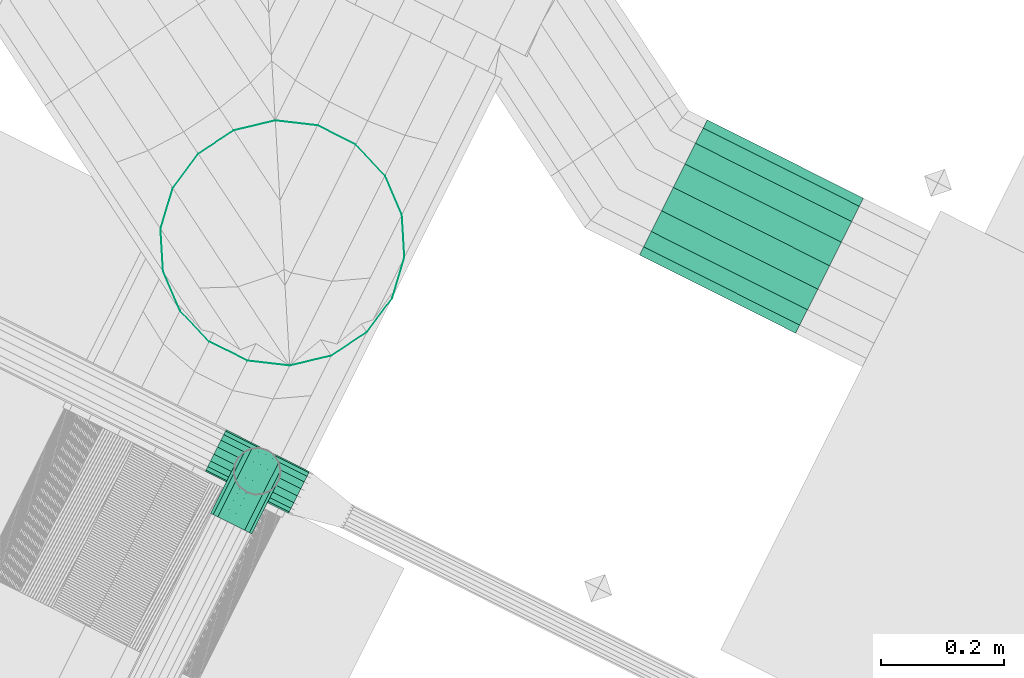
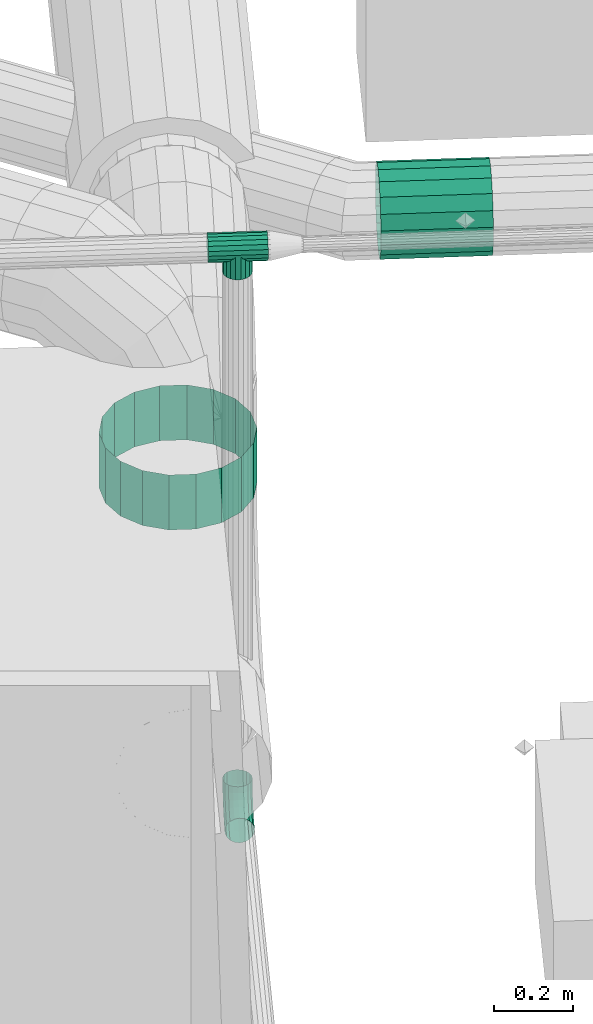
# One storey, part 139 of 206: 4 flow segments, 1 flow fitting.
"""IFC2X3 building model written with IfcOpenShell, lengths in metres."""

from ifc_helpers import new_model, si_unit, derived_unit, direction, frame, origin, place, context, subcontext, project, spatial, face_set, surface_model, source, transform, mapped, material, type_object, type_shapes, element, save


model = new_model("IFC2X3")

# Units and contexts
model_context = context("Model", 3, precision=5.2338327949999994e-05, world=origin(), true_north=direction((0.0, 1.0)))
body_context = subcontext(model_context, "Body", "Model", "MODEL_VIEW")
ifc_project = project(units=[si_unit("LENGTHUNIT", "METRE"), si_unit("AREAUNIT", "SQUARE_METRE"), si_unit("VOLUMEUNIT", "CUBIC_METRE"), si_unit("MASSUNIT", "GRAM", prefix="KILO"), si_unit("PLANEANGLEUNIT", "RADIAN"), derived_unit("THERMALTRANSMITTANCEUNIT", [(si_unit("MASSUNIT", "GRAM", prefix="KILO"), 1), (si_unit("THERMODYNAMICTEMPERATUREUNIT", "KELVIN"), -1), (si_unit("TIMEUNIT", "SECOND"), -3)])], contexts=[model_context])

# Site, building, storey
site_placement = place(None, frame((0.0, 0.0, 0.0), z_axis=(0.0, 0.0, 1.0), x_axis=(0.8939966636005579, -0.4480736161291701, 0.0)))
site = spatial("IfcSite", under=ifc_project, at=site_placement, Name="Default", CompositionType="ELEMENT")
building_placement = place(site_placement, origin())
building = spatial("IfcBuilding", under=site, at=building_placement, CompositionType="ELEMENT")
storey_placement = place(building_placement, origin())
storey = spatial("IfcBuildingStorey", under=building, at=storey_placement, Name="Erdgeschoss", CompositionType="ELEMENT", Elevation=0.0)

# Flow segments
ifc_material_1 = material(Name="IfcSurfaceStyle #251447")
distribution_element_type_1 = type_object("IfcDistributionElementType", Name="Wickelfalzrohr 284036:Wickelfalzrohr 284036", material=ifc_material_1)
shared_shape_1 = source(origin(), body_context, "Body", "SurfaceModel", [
    surface_model("IfcFaceBasedSurfaceModel", [(28.128931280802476, 8.794603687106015, 2.324999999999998), (28.128931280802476, 8.837356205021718, 2.317461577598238), (27.844215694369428, 8.837356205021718, 2.317461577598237), (27.844215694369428, 8.79460368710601, 2.324999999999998), (28.128931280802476, 8.874952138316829, 2.2957555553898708), (27.844215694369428, 8.874952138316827, 2.295755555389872), (28.128931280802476, 8.902856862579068, 2.262499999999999), (27.844215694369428, 8.902856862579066, 2.2625), (28.128931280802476, 8.91770465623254, 2.2217060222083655), (27.844215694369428, 8.917704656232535, 2.2217060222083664), (28.128931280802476, 8.917704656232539, 2.1782939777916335), (27.844215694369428, 8.917704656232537, 2.1782939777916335), (28.128931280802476, 8.902856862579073, 2.1374999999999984), (27.844215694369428, 8.90285686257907, 2.1374999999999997), (28.128931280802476, 8.874952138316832, 2.104244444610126), (27.844215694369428, 8.874952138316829, 2.104244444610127), (28.128931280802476, 8.837356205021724, 2.08253842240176), (27.844215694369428, 8.837356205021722, 2.08253842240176), (28.128931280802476, 8.794603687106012, 2.0749999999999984), (27.844215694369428, 8.794603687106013, 2.0749999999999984), (28.128931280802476, 8.751851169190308, 2.0825384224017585), (27.844215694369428, 8.751851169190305, 2.082538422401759), (28.128931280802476, 8.714255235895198, 2.104244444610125), (27.844215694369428, 8.714255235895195, 2.1042444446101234), (28.128931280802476, 8.686350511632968, 2.1374999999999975), (27.844215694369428, 8.686350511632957, 2.1374999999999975), (28.128931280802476, 8.671502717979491, 2.1782939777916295), (27.844215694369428, 8.671502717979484, 2.1782939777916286), (28.128931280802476, 8.671502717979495, 2.221706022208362), (27.844215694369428, 8.671502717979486, 2.221706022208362), (28.128931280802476, 8.686350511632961, 2.262499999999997), (27.844215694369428, 8.686350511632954, 2.2624999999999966), (28.128931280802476, 8.714255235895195, 2.2957555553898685), (27.844215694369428, 8.714255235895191, 2.2957555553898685), (28.128931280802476, 8.751851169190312, 2.317461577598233), (27.844215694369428, 8.751851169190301, 2.3174615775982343)], [face_set([[[0, 1, 2, 3]], [[1, 4, 5, 2]], [[4, 6, 7, 5]], [[6, 8, 9, 7]], [[8, 10, 11, 9]], [[10, 12, 13, 11]], [[12, 14, 15, 13]], [[14, 16, 17, 15]], [[16, 18, 19, 17]], [[18, 20, 21, 19]], [[20, 22, 23, 21]], [[22, 24, 25, 23]], [[24, 26, 27, 25]], [[26, 28, 29, 27]], [[28, 30, 31, 29]], [[30, 32, 33, 31]], [[32, 34, 35, 33]], [[34, 0, 3, 35]]])]),
])
type_shapes(distribution_element_type_1, [shared_shape_1])
flow_segment_1_placement = place(storey_placement, origin())
element("IfcFlowSegment", 1, at=flow_segment_1_placement, inside=storey, type_object=distribution_element_type_1, material=ifc_material_1, Name="Wickelfalzrohr", ObjectType="Wickelfalzrohr", context=body_context, shape_type="MappedRepresentation", body=[
    mapped(shared_shape_1, transform((0.0, 0.0, 0.0), scale=1.0)),
])
distribution_element_type_2 = type_object("IfcDistributionElementType", material=ifc_material_1)
shared_shape_2 = source(origin(), body_context, "Body", "SurfaceModel", [
    surface_model("IfcFaceBasedSurfaceModel", [(27.515508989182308, 8.428208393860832, 1.6300000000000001), (27.50344751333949, 8.496612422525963, 1.6300000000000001), (27.50344751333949, 8.496612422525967, 1.7999999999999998), (27.515508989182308, 8.42820839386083, 1.7999999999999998), (27.468717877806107, 8.556765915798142, 1.6300000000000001), (27.468717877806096, 8.556765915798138, 1.7999999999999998), (27.415508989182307, 8.601413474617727, 1.6300000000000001), (27.415508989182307, 8.60141347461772, 1.7999999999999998), (27.350238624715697, 8.62516994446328, 1.6300000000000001), (27.350238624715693, 8.625169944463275, 1.7999999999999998), (27.280779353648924, 8.625169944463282, 1.6300000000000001), (27.280779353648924, 8.625169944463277, 1.7999999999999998), (27.215508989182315, 8.601413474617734, 1.6300000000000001), (27.21550898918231, 8.601413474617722, 1.7999999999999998), (27.162300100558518, 8.556765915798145, 1.6300000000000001), (27.162300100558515, 8.55676591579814, 1.7999999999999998), (27.127570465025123, 8.496612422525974, 1.6300000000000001), (27.127570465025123, 8.496612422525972, 1.7999999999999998), (27.115508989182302, 8.428208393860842, 1.6300000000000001), (27.115508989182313, 8.428208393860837, 1.7999999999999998), (27.12757046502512, 8.359804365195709, 1.6300000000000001), (27.127570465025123, 8.3598043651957, 1.7999999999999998), (27.162300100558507, 8.29965087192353, 1.6300000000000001), (27.162300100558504, 8.299650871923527, 1.7999999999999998), (27.2155089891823, 8.255003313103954, 1.6300000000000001), (27.215508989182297, 8.255003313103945, 1.7999999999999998), (27.280779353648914, 8.2312468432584, 1.6300000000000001), (27.280779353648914, 8.23124684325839, 1.7999999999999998), (27.350238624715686, 8.231246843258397, 1.6300000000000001), (27.350238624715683, 8.23124684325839, 1.7999999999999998), (27.4155089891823, 8.25500331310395, 1.6300000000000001), (27.4155089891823, 8.255003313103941, 1.7999999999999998), (27.468717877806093, 8.299650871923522, 1.6300000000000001), (27.468717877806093, 8.299650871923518, 1.7999999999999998), (27.50344751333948, 8.359804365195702, 1.6300000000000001), (27.503447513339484, 8.359804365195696, 1.7999999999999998)], [face_set([[[0, 1, 2, 3]], [[1, 4, 5, 2]], [[4, 6, 7, 5]], [[6, 8, 9, 7]], [[8, 10, 11, 9]], [[10, 12, 13, 11]], [[12, 14, 15, 13]], [[14, 16, 17, 15]], [[16, 18, 19, 17]], [[18, 20, 21, 19]], [[20, 22, 23, 21]], [[22, 24, 25, 23]], [[24, 26, 27, 25]], [[26, 28, 29, 27]], [[28, 30, 31, 29]], [[30, 32, 33, 31]], [[32, 34, 35, 33]], [[34, 0, 3, 35]]])]),
])
type_shapes(distribution_element_type_2, [shared_shape_2])
flow_segment_2_placement = place(storey_placement, origin())
element("IfcFlowSegment", 2, at=flow_segment_2_placement, inside=storey, type_object=distribution_element_type_2, material=ifc_material_1, Name="Wickelfalzrohr", ObjectType="Wickelfalzrohr", context=body_context, shape_type="MappedRepresentation", body=[
    mapped(shared_shape_2, transform((0.0, 0.0, 0.0), scale=1.0)),
])
distribution_element_type_3 = type_object("IfcDistributionElementType", material=ifc_material_1)
shared_shape_3 = source(origin(), body_context, "Body", "SurfaceModel", [
    surface_model("IfcFaceBasedSurfaceModel", [(27.515508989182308, 8.428208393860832, 1.6300000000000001), (27.50344751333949, 8.496612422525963, 1.6300000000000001), (27.50344751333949, 8.496612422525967, 1.7999999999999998), (27.515508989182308, 8.42820839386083, 1.7999999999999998), (27.468717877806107, 8.556765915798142, 1.6300000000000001), (27.468717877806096, 8.556765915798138, 1.7999999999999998), (27.415508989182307, 8.601413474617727, 1.6300000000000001), (27.415508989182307, 8.60141347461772, 1.7999999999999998), (27.350238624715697, 8.62516994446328, 1.6300000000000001), (27.350238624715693, 8.625169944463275, 1.7999999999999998), (27.280779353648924, 8.625169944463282, 1.6300000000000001), (27.280779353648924, 8.625169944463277, 1.7999999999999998), (27.215508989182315, 8.601413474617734, 1.6300000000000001), (27.21550898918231, 8.601413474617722, 1.7999999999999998), (27.162300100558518, 8.556765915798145, 1.6300000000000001), (27.162300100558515, 8.55676591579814, 1.7999999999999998), (27.127570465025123, 8.496612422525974, 1.6300000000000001), (27.127570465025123, 8.496612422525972, 1.7999999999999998), (27.115508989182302, 8.428208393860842, 1.6300000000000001), (27.115508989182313, 8.428208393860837, 1.7999999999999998), (27.12757046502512, 8.359804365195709, 1.6300000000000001), (27.127570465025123, 8.3598043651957, 1.7999999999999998), (27.162300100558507, 8.29965087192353, 1.6300000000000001), (27.162300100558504, 8.299650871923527, 1.7999999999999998), (27.2155089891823, 8.255003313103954, 1.6300000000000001), (27.215508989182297, 8.255003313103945, 1.7999999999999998), (27.280779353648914, 8.2312468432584, 1.6300000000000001), (27.280779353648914, 8.23124684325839, 1.7999999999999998), (27.350238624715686, 8.231246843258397, 1.6300000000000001), (27.350238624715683, 8.23124684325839, 1.7999999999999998), (27.4155089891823, 8.25500331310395, 1.6300000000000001), (27.4155089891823, 8.255003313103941, 1.7999999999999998), (27.468717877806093, 8.299650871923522, 1.6300000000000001), (27.468717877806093, 8.299650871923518, 1.7999999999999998), (27.50344751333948, 8.359804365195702, 1.6300000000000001), (27.503447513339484, 8.359804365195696, 1.7999999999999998)], [face_set([[[0, 1, 2, 3]], [[1, 4, 5, 2]], [[4, 6, 7, 5]], [[6, 8, 9, 7]], [[8, 10, 11, 9]], [[10, 12, 13, 11]], [[12, 14, 15, 13]], [[14, 16, 17, 15]], [[16, 18, 19, 17]], [[18, 20, 21, 19]], [[20, 22, 23, 21]], [[22, 24, 25, 23]], [[24, 26, 27, 25]], [[26, 28, 29, 27]], [[28, 30, 31, 29]], [[30, 32, 33, 31]], [[32, 34, 35, 33]], [[34, 0, 3, 35]]])]),
])
type_shapes(distribution_element_type_3, [shared_shape_3])
flow_segment_3_placement = place(storey_placement, origin())
element("IfcFlowSegment", 3, at=flow_segment_3_placement, inside=storey, type_object=distribution_element_type_3, material=ifc_material_1, Name="Wickelfalzrohr", ObjectType="Wickelfalzrohr", context=body_context, shape_type="MappedRepresentation", body=[
    mapped(shared_shape_3, transform((0.0, 0.0, 0.0), scale=1.0)),
])

# Flow fitting
ifc_material_2 = material(Name="IfcSurfaceStyle #352577")
distribution_element_type_4 = type_object("IfcDistributionElementType", Name="Abzweigstück 604998:Abzweigstück 604998", material=ifc_material_2)
shared_shape_4 = source(origin(), body_context, "Body", "SurfaceModel", [
    surface_model("IfcFaceBasedSurfaceModel", [(27.369642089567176, 8.115212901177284, 2.6051641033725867), (27.369642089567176, 8.112918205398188, 2.61817796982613), (27.52164208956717, 8.112918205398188, 2.61817796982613), (27.52164208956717, 8.115212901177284, 2.6051641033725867), (27.369642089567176, 8.106310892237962, 2.6296221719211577), (27.52164208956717, 8.106310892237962, 2.6296221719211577), (27.369642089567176, 8.096187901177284, 2.638116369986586), (27.52164208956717, 8.096187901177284, 2.638116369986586), (27.369642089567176, 8.08377021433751, 2.642636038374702), (27.52164208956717, 8.08377021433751, 2.642636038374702), (27.369642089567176, 8.070555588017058, 2.642636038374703), (27.52164208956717, 8.070555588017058, 2.642636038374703), (27.369642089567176, 8.058137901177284, 2.638116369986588), (27.52164208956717, 8.058137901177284, 2.638116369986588), (27.369642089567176, 8.048014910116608, 2.62962217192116), (27.52164208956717, 8.048014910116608, 2.62962217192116), (27.369642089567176, 8.04140759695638, 2.618177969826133), (27.52164208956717, 8.04140759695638, 2.618177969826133), (27.369642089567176, 8.039112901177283, 2.60516410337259), (27.52164208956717, 8.039112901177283, 2.60516410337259), (27.369642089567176, 8.041407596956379, 2.592150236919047), (27.52164208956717, 8.041407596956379, 2.592150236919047), (27.369642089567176, 8.048014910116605, 2.5807060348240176), (27.52164208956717, 8.048014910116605, 2.5807060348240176), (27.369642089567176, 8.058137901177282, 2.5722118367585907), (27.52164208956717, 8.058137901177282, 2.5722118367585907), (27.369642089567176, 8.070555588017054, 2.5676921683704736), (27.52164208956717, 8.070555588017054, 2.5676921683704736), (27.369642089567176, 8.083770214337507, 2.5676921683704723), (27.52164208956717, 8.083770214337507, 2.5676921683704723), (27.369642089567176, 8.096187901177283, 2.5722118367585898), (27.52164208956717, 8.096187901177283, 2.5722118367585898), (27.369642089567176, 8.106310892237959, 2.580706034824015), (27.52164208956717, 8.106310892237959, 2.580706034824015), (27.369642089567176, 8.112918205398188, 2.592150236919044), (27.52164208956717, 8.112918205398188, 2.592150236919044), (27.48369208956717, 8.077162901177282, 2.5671141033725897), (27.481397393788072, 8.064149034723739, 2.569408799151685), (27.48139739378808, 8.064149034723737, 2.5291641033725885), (27.48369208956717, 8.077162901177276, 2.5291641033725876), (27.47479008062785, 8.052704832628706, 2.576016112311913), (27.47479008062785, 8.052704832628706, 2.5291641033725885), (27.464667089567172, 8.044210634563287, 2.5861391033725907), (27.464667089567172, 8.044210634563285, 2.5291641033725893), (27.4522494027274, 8.039690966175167, 2.598556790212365), (27.4522494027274, 8.039690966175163, 2.529164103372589), (27.43903477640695, 8.039690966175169, 2.598556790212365), (27.43903477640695, 8.039690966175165, 2.529164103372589), (27.426617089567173, 8.044210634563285, 2.5861391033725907), (27.426617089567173, 8.044210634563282, 2.5291641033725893), (27.416494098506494, 8.052704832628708, 2.576016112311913), (27.416494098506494, 8.052704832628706, 2.5291641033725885), (27.40988678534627, 8.064149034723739, 2.569408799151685), (27.40988678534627, 8.064149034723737, 2.5291641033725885), (27.407592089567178, 8.07716290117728, 2.5671141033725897), (27.407592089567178, 8.077162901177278, 2.5291641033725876), (27.409886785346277, 8.090176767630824, 2.569408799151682), (27.40988678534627, 8.09017676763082, 2.5291641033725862), (27.416494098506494, 8.101620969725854, 2.57601611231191), (27.416494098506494, 8.101620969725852, 2.5291641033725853), (27.426617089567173, 8.110115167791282, 2.5861391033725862), (27.426617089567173, 8.11011516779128, 2.529164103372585), (27.439034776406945, 8.1146348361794, 2.598556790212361), (27.43903477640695, 8.114634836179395, 2.529164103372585), (27.4522494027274, 8.114634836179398, 2.598556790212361), (27.4522494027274, 8.114634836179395, 2.529164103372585), (27.464667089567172, 8.11011516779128, 2.5861391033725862), (27.464667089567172, 8.110115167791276, 2.529164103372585), (27.474790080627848, 8.10162096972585, 2.57601611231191), (27.47479008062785, 8.10162096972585, 2.5291641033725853), (27.48139739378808, 8.090176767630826, 2.569408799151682), (27.48139739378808, 8.090176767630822, 2.5291641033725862)], [face_set([[[0, 1, 2, 3]], [[1, 4, 5, 2]], [[4, 6, 7, 5]], [[6, 8, 9, 7]], [[8, 10, 11, 9]], [[10, 12, 13, 11]], [[12, 14, 15, 13]], [[14, 16, 17, 15]], [[16, 18, 19, 17]], [[18, 20, 21, 19]], [[20, 22, 23, 21]], [[22, 24, 25, 23]], [[24, 26, 27, 25]], [[26, 28, 29, 27]], [[28, 30, 31, 29]], [[30, 32, 33, 31]], [[32, 34, 35, 33]], [[34, 0, 3, 35]], [[36, 37, 38, 39]], [[37, 40, 41, 38]], [[40, 42, 43, 41]], [[42, 44, 45, 43]], [[44, 46, 47, 45]], [[46, 48, 49, 47]], [[48, 50, 51, 49]], [[50, 52, 53, 51]], [[52, 54, 55, 53]], [[54, 56, 57, 55]], [[56, 58, 59, 57]], [[58, 60, 61, 59]], [[60, 62, 63, 61]], [[62, 64, 65, 63]], [[64, 66, 67, 65]], [[66, 68, 69, 67]], [[68, 70, 71, 69]], [[70, 36, 39, 71]]])]),
])
type_shapes(distribution_element_type_4, [shared_shape_4])
flow_fitting_placement = place(storey_placement, origin())
element("IfcFlowFitting", 4, at=flow_fitting_placement, inside=storey, type_object=distribution_element_type_4, material=ifc_material_2, Name="Abzweigstück", ObjectType="Abzweigstück", context=body_context, shape_type="MappedRepresentation", body=[
    mapped(shared_shape_4, transform((0.0, 0.0, 0.0), scale=1.0)),
])

# Flow segment
distribution_element_type_5 = type_object("IfcDistributionElementType", Name="Rohrbogen 605204:Rohrbogen 605204", material=ifc_material_2)
shared_shape_5 = source(origin(), body_context, "Body", "SurfaceModel", [
    surface_model("IfcFaceBasedSurfaceModel", [(27.445642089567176, 7.9821629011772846, 0.8319499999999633), (27.432628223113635, 7.9821629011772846, 0.8342446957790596), (27.432628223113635, 8.022568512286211, 0.8406443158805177), (27.445642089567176, 8.023277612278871, 0.8384619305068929), (27.432628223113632, 8.059018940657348, 0.8592167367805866), (27.445642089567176, 8.060367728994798, 0.8573602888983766), (27.432628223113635, 8.087946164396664, 0.8881439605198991), (27.44564208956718, 8.08980261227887, 0.8867951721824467), (27.432628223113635, 8.106518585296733, 0.9245943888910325), (27.44564208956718, 8.108700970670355, 0.9238852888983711), (27.432628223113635, 8.112918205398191, 0.9649999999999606), (27.445642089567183, 8.115212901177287, 0.9649999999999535), (27.421184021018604, 7.9821629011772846, 0.8408520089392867), (27.421184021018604, 8.020526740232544, 0.8469282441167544), (27.421184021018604, 8.055135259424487, 0.8645621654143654), (27.421184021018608, 8.082600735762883, 0.8920276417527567), (27.421184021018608, 8.100234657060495, 0.9266361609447), (27.421184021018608, 8.106310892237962, 0.9649999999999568), (27.412689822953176, 7.982162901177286, 0.8509749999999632), (27.412689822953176, 8.017398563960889, 0.8565557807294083), (27.412689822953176, 8.049185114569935, 0.8727518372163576), (27.412689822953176, 8.074411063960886, 0.8979777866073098), (27.412689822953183, 8.090607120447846, 0.929764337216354), (27.412689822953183, 8.09618790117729, 0.9649999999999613), (27.40817015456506, 7.982162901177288, 0.8633926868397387), (27.40817015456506, 8.013561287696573, 0.8683657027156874), (27.40817015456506, 8.04188618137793, 0.8827979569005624), (27.40817015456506, 8.064364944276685, 0.9052767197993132), (27.408170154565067, 8.078797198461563, 0.93360161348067), (27.408170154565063, 8.083770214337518, 0.964999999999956), (27.40817015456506, 7.982162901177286, 0.8766073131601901), (27.40817015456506, 8.00947774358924, 0.880933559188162), (27.40817015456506, 8.034118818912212, 0.8934888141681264), (27.40817015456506, 8.053674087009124, 0.9130440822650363), (27.408170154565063, 8.066229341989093, 0.9376851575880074), (27.408170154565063, 8.070555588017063, 0.9649999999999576), (27.412689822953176, 7.982162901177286, 0.8890249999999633), (27.412689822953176, 8.005640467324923, 0.892743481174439), (27.412689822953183, 8.02681988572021, 0.9035349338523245), (27.412689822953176, 8.043627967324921, 0.9203430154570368), (27.412689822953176, 8.054419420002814, 0.941522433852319), (27.412689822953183, 8.058137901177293, 0.964999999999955), (27.421184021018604, 7.982162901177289, 0.8991479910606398), (27.421184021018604, 8.002512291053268, 0.9023710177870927), (27.421184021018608, 8.02086974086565, 0.911724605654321), (27.421184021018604, 8.035438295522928, 0.926293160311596), (27.421184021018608, 8.044791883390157, 0.9446506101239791), (27.42118402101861, 8.04801491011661, 0.9649999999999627), (27.432628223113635, 7.982162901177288, 0.9057553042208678), (27.432628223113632, 8.000470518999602, 0.9086549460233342), (27.432628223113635, 8.016986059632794, 0.9170700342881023), (27.432628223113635, 8.03009286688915, 0.9301768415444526), (27.432628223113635, 8.038507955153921, 0.9466923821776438), (27.432628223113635, 8.04140759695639, 0.9649999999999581), (27.445642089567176, 7.982162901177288, 0.9080499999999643), (27.445642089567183, 7.99976141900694, 0.9108373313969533), (27.44564208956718, 8.015637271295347, 0.9189264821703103), (27.445642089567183, 8.028236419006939, 0.9315256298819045), (27.44564208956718, 8.036325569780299, 0.9474014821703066), (27.445642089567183, 8.03911290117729, 0.964999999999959), (27.458655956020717, 7.982162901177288, 0.9057553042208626), (27.45865595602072, 8.000470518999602, 0.9086549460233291), (27.458655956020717, 8.016986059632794, 0.9170700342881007), (27.458655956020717, 8.030092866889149, 0.9301768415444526), (27.458655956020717, 8.038507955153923, 0.9466923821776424), (27.45865595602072, 8.041407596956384, 0.9649999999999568), (27.470100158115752, 7.982162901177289, 0.8991479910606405), (27.470100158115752, 8.00251229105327, 0.9023710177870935), (27.470100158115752, 8.02086974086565, 0.9117246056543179), (27.470100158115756, 8.03543829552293, 0.9262931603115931), (27.470100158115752, 8.044791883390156, 0.944650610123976), (27.470100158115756, 8.048014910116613, 0.96499999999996), (27.478594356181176, 7.982162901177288, 0.8890249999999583), (27.478594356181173, 8.005640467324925, 0.8927434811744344), (27.478594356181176, 8.02681988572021, 0.9035349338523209), (27.478594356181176, 8.043627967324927, 0.9203430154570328), (27.478594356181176, 8.054419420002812, 0.9415224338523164), (27.47859435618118, 8.058137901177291, 0.9649999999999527), (27.48311402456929, 7.982162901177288, 0.876607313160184), (27.48311402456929, 8.009477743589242, 0.8809335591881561), (27.48311402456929, 8.034118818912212, 0.8934888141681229), (27.48311402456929, 8.053674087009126, 0.913044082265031), (27.48311402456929, 8.066229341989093, 0.9376851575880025), (27.483114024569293, 8.070555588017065, 0.9649999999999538), (27.48311402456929, 7.982162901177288, 0.8633926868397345), (27.48311402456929, 8.013561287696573, 0.8683657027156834), (27.48311402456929, 8.041886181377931, 0.8827979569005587), (27.48311402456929, 8.064364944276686, 0.9052767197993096), (27.483114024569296, 8.078797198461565, 0.9336016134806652), (27.483114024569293, 8.083770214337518, 0.9649999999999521), (27.478594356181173, 7.982162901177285, 0.8509749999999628), (27.478594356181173, 8.01739856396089, 0.8565557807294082), (27.478594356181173, 8.049185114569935, 0.8727518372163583), (27.478594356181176, 8.07441106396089, 0.8979777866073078), (27.478594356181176, 8.090607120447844, 0.9297643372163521), (27.47859435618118, 8.096187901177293, 0.9649999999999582), (27.47010015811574, 7.9821629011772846, 0.8408520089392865), (27.470100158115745, 8.020526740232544, 0.8469282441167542), (27.470100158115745, 8.055135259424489, 0.8645621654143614), (27.470100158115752, 8.082600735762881, 0.8920276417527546), (27.470100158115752, 8.100234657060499, 0.9266361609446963), (27.47010015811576, 8.106310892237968, 0.9649999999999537), (27.458655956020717, 7.982162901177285, 0.8342446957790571), (27.458655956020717, 8.022568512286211, 0.8406443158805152), (27.458655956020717, 8.05901894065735, 0.8592167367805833), (27.458655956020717, 8.087946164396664, 0.8881439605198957), (27.458655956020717, 8.106518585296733, 0.9245943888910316), (27.458655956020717, 8.112918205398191, 0.9649999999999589)], [face_set([[[0, 1, 2, 3]], [[3, 2, 4, 5]], [[5, 4, 6, 7]], [[7, 6, 8, 9]], [[9, 8, 10, 11]], [[1, 12, 13, 2]], [[2, 13, 14, 4]], [[4, 14, 15, 6]], [[6, 15, 16, 8]], [[8, 16, 17, 10]], [[12, 18, 19, 13]], [[13, 19, 20, 14]], [[14, 20, 21, 15]], [[15, 21, 22, 16]], [[16, 22, 23, 17]], [[18, 24, 25, 19]], [[19, 25, 26, 20]], [[20, 26, 27, 21]], [[21, 27, 28, 22]], [[22, 28, 29, 23]], [[24, 30, 31, 25]], [[25, 31, 32, 26]], [[26, 32, 33, 27]], [[27, 33, 34, 28]], [[28, 34, 35, 29]], [[30, 36, 37, 31]], [[31, 37, 38, 32]], [[32, 38, 39, 33]], [[33, 39, 40, 34]], [[34, 40, 41, 35]], [[36, 42, 43, 37]], [[37, 43, 44, 38]], [[38, 44, 45, 39]], [[39, 45, 46, 40]], [[40, 46, 47, 41]], [[42, 48, 49, 43]], [[43, 49, 50, 44]], [[44, 50, 51, 45]], [[45, 51, 52, 46]], [[46, 52, 53, 47]], [[48, 54, 55, 49]], [[49, 55, 56, 50]], [[50, 56, 57, 51]], [[51, 57, 58, 52]], [[52, 58, 59, 53]], [[54, 60, 61, 55]], [[55, 61, 62, 56]], [[56, 62, 63, 57]], [[57, 63, 64, 58]], [[58, 64, 65, 59]], [[60, 66, 67, 61]], [[61, 67, 68, 62]], [[62, 68, 69, 63]], [[63, 69, 70, 64]], [[64, 70, 71, 65]], [[66, 72, 73, 67]], [[67, 73, 74, 68]], [[68, 74, 75, 69]], [[69, 75, 76, 70]], [[70, 76, 77, 71]], [[72, 78, 79, 73]], [[73, 79, 80, 74]], [[74, 80, 81, 75]], [[75, 81, 82, 76]], [[76, 82, 83, 77]], [[78, 84, 85, 79]], [[79, 85, 86, 80]], [[80, 86, 87, 81]], [[81, 87, 88, 82]], [[82, 88, 89, 83]], [[84, 90, 91, 85]], [[85, 91, 92, 86]], [[86, 92, 93, 87]], [[87, 93, 94, 88]], [[88, 94, 95, 89]], [[90, 96, 97, 91]], [[91, 97, 98, 92]], [[92, 98, 99, 93]], [[93, 99, 100, 94]], [[94, 100, 101, 95]], [[96, 102, 103, 97]], [[97, 103, 104, 98]], [[98, 104, 105, 99]], [[99, 105, 106, 100]], [[100, 106, 107, 101]], [[102, 0, 3, 103]], [[103, 3, 5, 104]], [[104, 5, 7, 105]], [[105, 7, 9, 106]], [[106, 9, 11, 107]]])]),
])
type_shapes(distribution_element_type_5, [shared_shape_5])
flow_segment_4_placement = place(storey_placement, origin())
element("IfcFlowSegment", 5, at=flow_segment_4_placement, inside=storey, type_object=distribution_element_type_5, material=ifc_material_2, Name="Rohrbogen", ObjectType="Rohrbogen", context=body_context, shape_type="MappedRepresentation", body=[
    mapped(shared_shape_5, transform((0.0, 0.0, 0.0), scale=1.0)),
])

save(model, "model.ifc")
